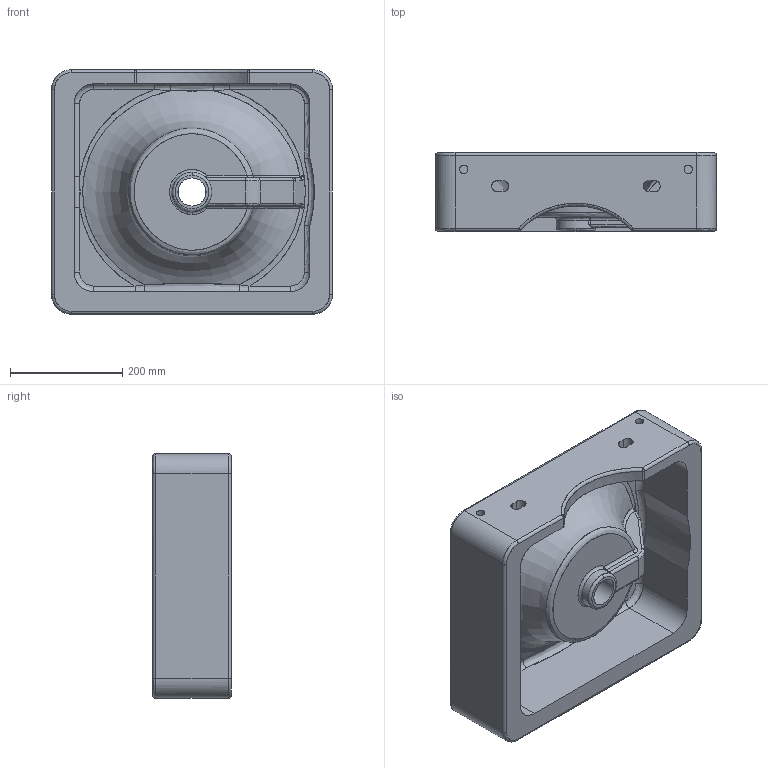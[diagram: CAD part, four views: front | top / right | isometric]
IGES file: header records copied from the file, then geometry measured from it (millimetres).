
Start section: C
Global section: file name: Lines 50x44.igs; native system:  By UGS Corp.; preprocessor: XPlus GENERIC/IGES 3.0; author: Author; organization: Title; date: 20140131.122851; units: millimetre
Bounding box: 500 x 140 x 435 mm (x, y, z)
Surface area: 931487.9 mm2 (no closed solid volume)
Topology: 0 solids, 0 shells, 131 faces, 640 edges, 636 vertices
Faces by surface type: bspline 131
